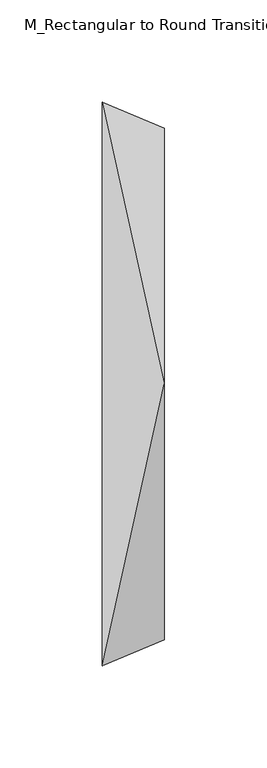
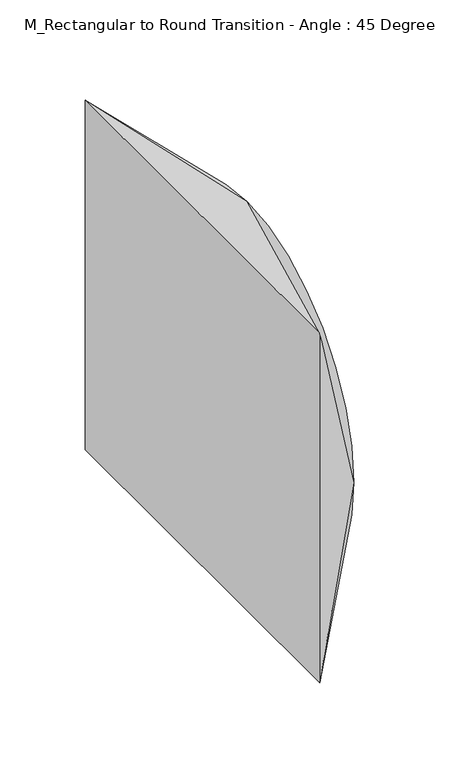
"""IFC4 building model written with IfcOpenShell, lengths in millimetres: duct fitting geometry, M_Rectangular to Round Transition - Angle : 45 Degree."""

from ifc_helpers import new_model, si_unit, frame, origin, place, context, project, spatial, circle_curve, source, transform, mapped, element, save
from ifc_brep_helpers import plane_surface, spline_surface, advanced_brep


def m_rectangular_to_round_transition_angle_45_degree_2367f443(model_context):
    return source(origin(), model_context, "Body", "AdvancedBrep", [
        advanced_brep(
        [(0.0, -137.5, -125.0), (0.0, -137.5, 125.0), (0.0, 137.5, 125.0), (0.0, 137.5, -125.0), (30.1776695, -125.0, 0.05), (30.1776695, 0.0, -124.95), (30.1776695, 125.0, 0.05), (30.1776695, 0.0, 125.05)],
        [
            (0, 1),
            (1, 2),
            (2, 3),
            (3, 0),
            (4, 5, circle_curve(frame((30.1776695, 0.0, 0.05), z_axis=(1.0, 0.0, 0.0), x_axis=(0.0, -1.0, 0.0)), 125.0)),
            (5, 6, circle_curve(frame((30.1776695, 0.0, 0.05), z_axis=(1.0, 0.0, 0.0), x_axis=(0.0, -1.0, 0.0)), 125.0)),
            (6, 7, circle_curve(frame((30.1776695, 0.0, 0.05), z_axis=(1.0, 0.0, 0.0), x_axis=(0.0, -1.0, 0.0)), 125.0)),
            (7, 4, circle_curve(frame((30.1776695, 0.0, 0.05), z_axis=(1.0, 0.0, 0.0), x_axis=(0.0, -1.0, 0.0)), 125.0)),
            (0, 4),
            (4, 1),
            (7, 1),
            (7, 2),
            (6, 2),
            (6, 3),
            (5, 3),
            (5, 0),
        ],
        [
            plane_surface(frame((0.0, 0.0, 0.0), z_axis=(-1.0, 0.0, 0.0), x_axis=(0.0, 1.0, 0.0))),
            plane_surface(frame((30.1776695, 0.0, 0.05), z_axis=(1.0, 0.0, 0.0), x_axis=(0.0, 1.0, 0.0))),
            plane_surface(frame((30.1776695, -125.0, 0.05), z_axis=(0.38268343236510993, -0.9238795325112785, 0.0), x_axis=(0.0, 0.0, 1.0))),
            spline_surface(2, 1, [[(30.1776695, -125.0, 0.05), (0.0, -137.5, 125.0)], [(30.1776695, -125.0, 125.05), (0.0, -137.5, 125.0)], [(30.1776695, 0.0, 125.05), (0.0, -137.5, 125.0)]], [3, 3], [2, 2], [0.0, 1.0], [0.0, 1.0], weights=[[1.0, 1.0], [0.7071067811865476, 0.7071067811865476], [1.0, 1.0]]),
            plane_surface(frame((30.1776695, 0.0, 125.05), z_axis=(-0.001656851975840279, 0.0, 0.9999986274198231), x_axis=(0.0, 1.0, 0.0))),
            spline_surface(2, 1, [[(30.1776695, 0.0, 125.05), (0.0, 137.5, 125.0)], [(30.1776695, 125.0, 125.05), (0.0, 137.5, 125.0)], [(30.1776695, 125.0, 0.05), (0.0, 137.5, 125.0)]], [3, 3], [2, 2], [0.0, 1.0], [0.0, 1.0], weights=[[1.0, 1.0], [0.7071067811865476, 0.7071067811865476], [1.0, 1.0]]),
            plane_surface(frame((30.1776695, 125.0, 0.05), z_axis=(0.3826834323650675, 0.9238795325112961, 0.0), x_axis=(0.0, 0.0, -1.0))),
            spline_surface(2, 1, [[(30.1776695, 125.0, 0.05), (0.0, 137.5, -125.0)], [(30.1776695, 125.0, -124.95), (0.0, 137.5, -125.0)], [(30.1776695, 0.0, -124.95), (0.0, 137.5, -125.0)]], [3, 3], [2, 2], [0.0, 1.0], [0.0, 1.0], weights=[[1.0, 1.0], [0.7071067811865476, 0.7071067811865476], [1.0, 1.0]]),
            plane_surface(frame((30.1776695, 0.0, -124.95), z_axis=(0.0016568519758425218, 0.0, -0.9999986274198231), x_axis=(0.0, -1.0, 0.0))),
            spline_surface(2, 1, [[(30.1776695, 0.0, -124.95), (0.0, -137.5, -125.0)], [(30.1776695, -125.0, -124.95), (0.0, -137.5, -125.0)], [(30.1776695, -125.0, 0.05), (0.0, -137.5, -125.0)]], [3, 3], [2, 2], [0.0, 1.0], [0.0, 1.0], weights=[[1.0, 1.0], [0.7071067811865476, 0.7071067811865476], [1.0, 1.0]]),
        ],
        [
            (0, [[1, 2, 3, 4]]),
            (1, [[5, 6, 7, 8]]),
            (2, [[-1, 9, 10]]),
            (3, [[-8, 11, -10]]),
            (4, [[-2, -11, 12]]),
            (5, [[-7, 13, -12]]),
            (6, [[-3, -13, 14]]),
            (7, [[-6, 15, -14]]),
            (8, [[-4, -15, 16]]),
            (9, [[-5, -9, -16]]),
        ],
    ),
        advanced_brep(
        [(0.0, -137.5, -125.0), (0.0, -137.5, 125.0), (0.0, 137.5, 125.0), (0.0, 137.5, -125.0), (30.1776695, -125.0, 0.05), (30.1776695, 0.0, -124.95), (30.1776695, 125.0, 0.05), (30.1776695, 0.0, 125.05)],
        [
            (0, 1),
            (1, 2),
            (2, 3),
            (3, 0),
            (4, 5, circle_curve(frame((30.1776695, 0.0, 0.05), z_axis=(1.0, 0.0, 0.0), x_axis=(0.0, -1.0, 0.0)), 125.0)),
            (5, 6, circle_curve(frame((30.1776695, 0.0, 0.05), z_axis=(1.0, 0.0, 0.0), x_axis=(0.0, -1.0, 0.0)), 125.0)),
            (6, 7, circle_curve(frame((30.1776695, 0.0, 0.05), z_axis=(1.0, 0.0, 0.0), x_axis=(0.0, -1.0, 0.0)), 125.0)),
            (7, 4, circle_curve(frame((30.1776695, 0.0, 0.05), z_axis=(1.0, 0.0, 0.0), x_axis=(0.0, -1.0, 0.0)), 125.0)),
            (0, 4),
            (4, 1),
            (7, 1),
            (7, 2),
            (6, 2),
            (6, 3),
            (5, 3),
            (5, 0),
        ],
        [
            plane_surface(frame((0.0, 0.0, 0.0), z_axis=(-1.0, 0.0, 0.0), x_axis=(0.0, 1.0, 0.0))),
            plane_surface(frame((30.1776695, 0.0, 0.05), z_axis=(1.0, 0.0, 0.0), x_axis=(0.0, 1.0, 0.0))),
            plane_surface(frame((30.1776695, -125.0, 0.05), z_axis=(0.3826834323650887, -0.9238795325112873, 0.0), x_axis=(0.0, 0.0, 1.0))),
            spline_surface(2, 1, [[(30.1776695, -125.0, 0.05), (0.0, -137.5, 125.0)], [(30.1776695, -125.0, 125.05), (0.0, -137.5, 125.0)], [(30.1776695, 0.0, 125.05), (0.0, -137.5, 125.0)]], [3, 3], [2, 2], [0.0, 1.0], [0.0, 1.0], weights=[[1.0, 1.0], [0.7071067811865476, 0.7071067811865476], [1.0, 1.0]]),
            plane_surface(frame((30.1776695, 0.0, 125.05), z_axis=(-0.0016568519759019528, 0.0, 0.999998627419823), x_axis=(0.0, 1.0, 0.0))),
            spline_surface(2, 1, [[(30.1776695, 0.0, 125.05), (0.0, 137.5, 125.0)], [(30.1776695, 125.0, 125.05), (0.0, 137.5, 125.0)], [(30.1776695, 125.0, 0.05), (0.0, 137.5, 125.0)]], [3, 3], [2, 2], [0.0, 1.0], [0.0, 1.0], weights=[[1.0, 1.0], [0.7071067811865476, 0.7071067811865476], [1.0, 1.0]]),
            plane_surface(frame((30.1776695, 125.0, 0.05), z_axis=(0.3826834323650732, 0.9238795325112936, 0.0), x_axis=(0.0, 0.0, -1.0))),
            spline_surface(2, 1, [[(30.1776695, 125.0, 0.05), (0.0, 137.5, -125.0)], [(30.1776695, 125.0, -124.95), (0.0, 137.5, -125.0)], [(30.1776695, 0.0, -124.95), (0.0, 137.5, -125.0)]], [3, 3], [2, 2], [0.0, 1.0], [0.0, 1.0], weights=[[1.0, 1.0], [0.7071067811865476, 0.7071067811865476], [1.0, 1.0]]),
            plane_surface(frame((30.1776695, 0.0, -124.95), z_axis=(0.0016568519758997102, 0.0, -0.999998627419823), x_axis=(0.0, -1.0, 0.0))),
            spline_surface(2, 1, [[(30.1776695, 0.0, -124.95), (0.0, -137.5, -125.0)], [(30.1776695, -125.0, -124.95), (0.0, -137.5, -125.0)], [(30.1776695, -125.0, 0.05), (0.0, -137.5, -125.0)]], [3, 3], [2, 2], [0.0, 1.0], [0.0, 1.0], weights=[[1.0, 1.0], [0.7071067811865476, 0.7071067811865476], [1.0, 1.0]]),
        ],
        [
            (0, [[1, 2, 3, 4]]),
            (1, [[5, 6, 7, 8]]),
            (2, [[-1, 9, 10]]),
            (3, [[-8, 11, -10]]),
            (4, [[-2, -11, 12]]),
            (5, [[-7, 13, -12]]),
            (6, [[-3, -13, 14]]),
            (7, [[-6, 15, -14]]),
            (8, [[-4, -15, 16]]),
            (9, [[-5, -9, -16]]),
        ],
    ),
        advanced_brep(
        [(30.1776695, 0.0, 125.05), (30.1776695, -125.0, 0.05), (30.1776695, 0.0, -124.95), (30.1776695, 125.0, 0.05), (0.0, -137.5, 125.0), (0.0, 137.5, 125.0), (0.0, 137.5, -125.0), (0.0, -137.5, -125.0)],
        [
            (0, 1, circle_curve(frame((30.1776695, 0.0, 0.05), z_axis=(1.0, 0.0, 0.0), x_axis=(0.0, 1.0, 0.0)), 125.0)),
            (1, 2, circle_curve(frame((30.1776695, 0.0, 0.05), z_axis=(1.0, 0.0, 0.0), x_axis=(0.0, 1.0, 0.0)), 125.0)),
            (2, 3, circle_curve(frame((30.1776695, 0.0, 0.05), z_axis=(1.0, 0.0, 0.0), x_axis=(0.0, 1.0, 0.0)), 125.0)),
            (3, 0, circle_curve(frame((30.1776695, 0.0, 0.05), z_axis=(1.0, 0.0, 0.0), x_axis=(0.0, 1.0, 0.0)), 125.0)),
            (4, 5),
            (5, 6),
            (6, 7),
            (7, 4),
            (0, 4),
            (4, 1),
            (7, 1),
            (7, 2),
            (6, 2),
            (6, 3),
            (5, 3),
            (5, 0),
        ],
        [
            plane_surface(frame((30.1776695, 0.0, 0.05), z_axis=(1.0, 0.0, 0.0), x_axis=(0.0, 0.0, -1.0))),
            plane_surface(frame((0.0, 0.0, 0.0), z_axis=(-1.0, 0.0, 0.0), x_axis=(0.0, 0.0, -1.0))),
            spline_surface(2, 1, [[(0.0, -137.5, 125.0), (30.1776695, 0.0, 125.05)], [(0.0, -137.5, 125.0), (30.1776695, -125.0, 125.05)], [(0.0, -137.5, 125.0), (30.1776695, -125.0, 0.05)]], [3, 3], [2, 2], [0.0, 1.0], [0.0, 1.0], weights=[[1.0, 1.0], [0.7071067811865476, 0.7071067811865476], [1.0, 1.0]]),
            plane_surface(frame((0.0, -137.5, 0.0), z_axis=(0.382683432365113, -0.9238795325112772, 0.0), x_axis=(0.0, 0.0, -1.0))),
            spline_surface(2, 1, [[(0.0, -137.5, -125.0), (30.1776695, -125.0, 0.05)], [(0.0, -137.5, -125.0), (30.1776695, -125.0, -124.95)], [(0.0, -137.5, -125.0), (30.1776695, 0.0, -124.95)]], [3, 3], [2, 2], [0.0, 1.0], [0.0, 1.0], weights=[[1.0, 1.0], [0.7071067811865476, 0.7071067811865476], [1.0, 1.0]]),
            plane_surface(frame((0.0, 0.0, -125.0), z_axis=(0.0016568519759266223, 0.0, -0.999998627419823), x_axis=(0.0, 1.0, 0.0))),
            spline_surface(2, 1, [[(0.0, 137.5, -125.0), (30.1776695, 0.0, -124.95)], [(0.0, 137.5, -125.0), (30.1776695, 125.0, -124.95)], [(0.0, 137.5, -125.0), (30.1776695, 125.0, 0.05)]], [3, 3], [2, 2], [0.0, 1.0], [0.0, 1.0], weights=[[1.0, 1.0], [0.7071067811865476, 0.7071067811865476], [1.0, 1.0]]),
            plane_surface(frame((0.0, 137.5, 0.0), z_axis=(0.3826834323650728, 0.9238795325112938, 0.0), x_axis=(0.0, 0.0, 1.0))),
            spline_surface(2, 1, [[(0.0, 137.5, 125.0), (30.1776695, 125.0, 0.05)], [(0.0, 137.5, 125.0), (30.1776695, 125.0, 125.05)], [(0.0, 137.5, 125.0), (30.1776695, 0.0, 125.05)]], [3, 3], [2, 2], [0.0, 1.0], [0.0, 1.0], weights=[[1.0, 1.0], [0.7071067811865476, 0.7071067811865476], [1.0, 1.0]]),
            plane_surface(frame((0.0, 0.0, 125.0), z_axis=(-0.0016568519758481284, 0.0, 0.9999986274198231), x_axis=(0.0, -1.0, 0.0))),
        ],
        [
            (0, [[1, 2, 3, 4]]),
            (1, [[5, 6, 7, 8]]),
            (2, [[-1, 9, 10]]),
            (3, [[-8, 11, -10]]),
            (4, [[-2, -11, 12]]),
            (5, [[-7, 13, -12]]),
            (6, [[-3, -13, 14]]),
            (7, [[-6, 15, -14]]),
            (8, [[-4, -15, 16]]),
            (9, [[-5, -9, -16]]),
        ],
    ),
    ])


if __name__ == "__main__":
    model = new_model("IFC4")
    model_context = context("Model", 3, world=origin())
    ifc_project = project(units=[si_unit("LENGTHUNIT", "METRE", prefix="MILLI")], contexts=[model_context])
    site = spatial("IfcSite", under=ifc_project)
    building = spatial("IfcBuilding", under=site)
    placement = place(None, origin())
    m_rectangular_to_round_transition_angle_45_degree_shape = m_rectangular_to_round_transition_angle_45_degree_2367f443(model_context)
    element("IfcDuctFitting", 1, ObjectType="M_Rectangular to Round Transition - Angle : 45 Degree", at=placement, inside=building, context=model_context, shape_type="MappedRepresentation", body=[
        mapped(m_rectangular_to_round_transition_angle_45_degree_shape, transform((0.0, 0.0, 0.0), x_axis=(1.0, 0.0, 0.0), y_axis=(0.0, 1.0, 0.0), z_axis=(0.0, 0.0, 1.0))),
    ])
    save(model, "model.ifc")
